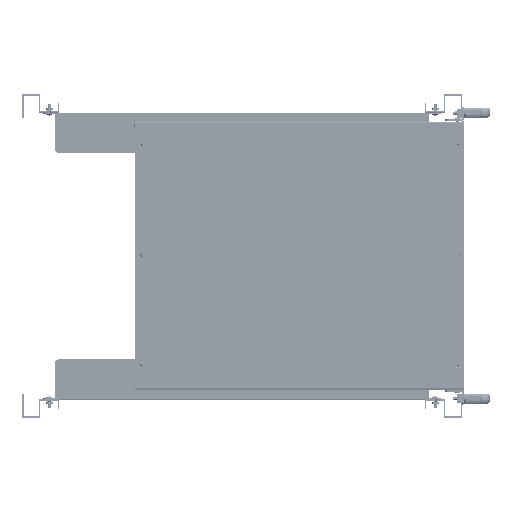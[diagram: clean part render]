
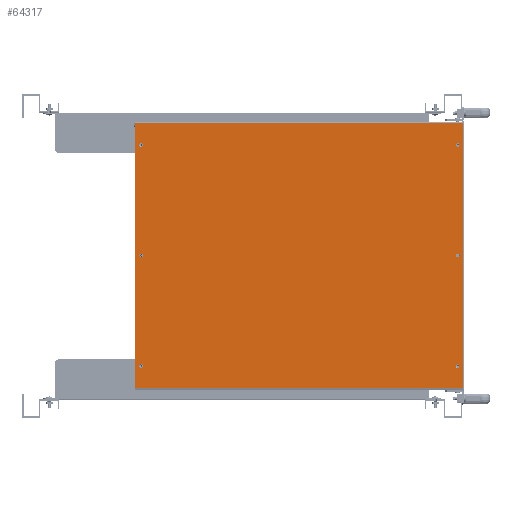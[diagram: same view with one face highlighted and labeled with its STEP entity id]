
A CAD part, top view. The second image highlights one B-rep face of the part: STEP entity #64317.
In plain terms, the highlighted planar face has unit normal (0, 0, 1) as drawn and (0, 1, 0) by its records, which use the part's own axes.
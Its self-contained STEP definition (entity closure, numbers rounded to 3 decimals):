
#58426=DIRECTION('',(-1.,0.,0.));
#58427=VECTOR('',#58426,432.);
#58428=CARTESIAN_POINT('',(216.,65.7,266.3));
#58429=LINE('',#58428,#58427);
#58430=CARTESIAN_POINT('',(0.,65.7,257.3));
#58431=DIRECTION('',(0.,1.,0.));
#58432=DIRECTION('',(0.,0.,1.));
#58433=AXIS2_PLACEMENT_3D('',#58430,#58431,#58432);
#58435=CARTESIAN_POINT('',(0.,65.7,257.3));
#58436=DIRECTION('',(0.,1.,0.));
#58437=DIRECTION('',(0.,0.,-1.));
#58438=AXIS2_PLACEMENT_3D('',#58435,#58436,#58437);
#58440=CARTESIAN_POINT('',(180.,65.7,-257.7));
#58441=DIRECTION('',(0.,1.,0.));
#58442=DIRECTION('',(0.,0.,1.));
#58443=AXIS2_PLACEMENT_3D('',#58440,#58441,#58442);
#58445=CARTESIAN_POINT('',(180.,65.7,-257.7));
#58446=DIRECTION('',(0.,1.,0.));
#58447=DIRECTION('',(0.,0.,-1.));
#58448=AXIS2_PLACEMENT_3D('',#58445,#58446,#58447);
#58450=CARTESIAN_POINT('',(0.,65.7,-257.7));
#58451=DIRECTION('',(0.,1.,0.));
#58452=DIRECTION('',(0.,0.,1.));
#58453=AXIS2_PLACEMENT_3D('',#58450,#58451,#58452);
#58455=CARTESIAN_POINT('',(0.,65.7,-257.7));
#58456=DIRECTION('',(0.,1.,0.));
#58457=DIRECTION('',(0.,0.,-1.));
#58458=AXIS2_PLACEMENT_3D('',#58455,#58456,#58457);
#58460=CARTESIAN_POINT('',(-180.,65.7,-257.7));
#58461=DIRECTION('',(0.,1.,0.));
#58462=DIRECTION('',(0.,0.,1.));
#58463=AXIS2_PLACEMENT_3D('',#58460,#58461,#58462);
#58465=CARTESIAN_POINT('',(-180.,65.7,-257.7));
#58466=DIRECTION('',(0.,1.,0.));
#58467=DIRECTION('',(0.,0.,-1.));
#58468=AXIS2_PLACEMENT_3D('',#58465,#58466,#58467);
#58470=CARTESIAN_POINT('',(180.,65.7,257.3));
#58471=DIRECTION('',(0.,1.,0.));
#58472=DIRECTION('',(0.,0.,1.));
#58473=AXIS2_PLACEMENT_3D('',#58470,#58471,#58472);
#58475=CARTESIAN_POINT('',(180.,65.7,257.3));
#58476=DIRECTION('',(0.,1.,0.));
#58477=DIRECTION('',(0.,0.,-1.));
#58478=AXIS2_PLACEMENT_3D('',#58475,#58476,#58477);
#58480=CARTESIAN_POINT('',(-180.,65.7,257.3));
#58481=DIRECTION('',(0.,1.,0.));
#58482=DIRECTION('',(0.,0.,1.));
#58483=AXIS2_PLACEMENT_3D('',#58480,#58481,#58482);
#58485=CARTESIAN_POINT('',(-180.,65.7,257.3));
#58486=DIRECTION('',(0.,1.,0.));
#58487=DIRECTION('',(0.,0.,-1.));
#58488=AXIS2_PLACEMENT_3D('',#58485,#58486,#58487);
#58490=DIRECTION('',(0.,0.,1.));
#58491=VECTOR('',#58490,533.5);
#58492=CARTESIAN_POINT('',(-216.,65.7,-267.2));
#58493=LINE('',#58492,#58491);
#59612=DIRECTION('',(-1.,0.,0.));
#59613=VECTOR('',#59612,432.);
#59614=CARTESIAN_POINT('',(216.,65.7,-267.2));
#59615=LINE('',#59614,#59613);
#60108=DIRECTION('',(0.,0.,-1.));
#60109=VECTOR('',#60108,533.5);
#60110=CARTESIAN_POINT('',(216.,65.7,266.3));
#60111=LINE('',#60110,#60109);
#62806=CARTESIAN_POINT('',(180.,65.7,-260.7));
#62808=VERTEX_POINT('',#62806);
#62811=CARTESIAN_POINT('',(180.,65.7,-254.7));
#62813=VERTEX_POINT('',#62811);
#62842=CARTESIAN_POINT('',(-216.,65.7,266.3));
#62843=VERTEX_POINT('',#62842);
#62844=CARTESIAN_POINT('',(216.,65.7,266.3));
#62845=VERTEX_POINT('',#62844);
#62846=CARTESIAN_POINT('',(0.,65.7,260.3));
#62847=CARTESIAN_POINT('',(0.,65.7,254.3));
#62848=VERTEX_POINT('',#62846);
#62849=VERTEX_POINT('',#62847);
#62850=CARTESIAN_POINT('',(0.,65.7,-254.7));
#62851=CARTESIAN_POINT('',(0.,65.7,-260.7));
#62852=VERTEX_POINT('',#62850);
#62853=VERTEX_POINT('',#62851);
#62854=CARTESIAN_POINT('',(-180.,65.7,-254.7));
#62855=CARTESIAN_POINT('',(-180.,65.7,-260.7));
#62856=VERTEX_POINT('',#62854);
#62857=VERTEX_POINT('',#62855);
#62858=CARTESIAN_POINT('',(180.,65.7,260.3));
#62859=CARTESIAN_POINT('',(180.,65.7,254.3));
#62860=VERTEX_POINT('',#62858);
#62861=VERTEX_POINT('',#62859);
#62862=CARTESIAN_POINT('',(-180.,65.7,260.3));
#62863=CARTESIAN_POINT('',(-180.,65.7,254.3));
#62864=VERTEX_POINT('',#62862);
#62865=VERTEX_POINT('',#62863);
#62866=CARTESIAN_POINT('',(-216.,65.7,-267.2));
#62867=VERTEX_POINT('',#62866);
#63552=CARTESIAN_POINT('',(216.,65.7,-267.2));
#63553=VERTEX_POINT('',#63552);
#64269=CARTESIAN_POINT('',(0.,65.7,-0.45));
#64270=DIRECTION('',(0.,1.,0.));
#64271=DIRECTION('',(0.,0.,1.));
#64272=AXIS2_PLACEMENT_3D('',#64269,#64270,#64271);
#64273=PLANE('',#64272);
#64274=ORIENTED_EDGE('',*,*,#64259,.T.);
#64276=ORIENTED_EDGE('',*,*,#64275,.F.);
#64278=ORIENTED_EDGE('',*,*,#64277,.F.);
#64280=ORIENTED_EDGE('',*,*,#64279,.F.);
#64281=EDGE_LOOP('',(#64274,#64276,#64278,#64280));
#64282=FACE_OUTER_BOUND('',#64281,.F.);
#64284=ORIENTED_EDGE('',*,*,#64283,.T.);
#64286=ORIENTED_EDGE('',*,*,#64285,.T.);
#64287=EDGE_LOOP('',(#64284,#64286));
#64288=FACE_BOUND('',#64287,.F.);
#64289=ORIENTED_EDGE('',*,*,#64181,.T.);
#64290=ORIENTED_EDGE('',*,*,#64198,.T.);
#64291=EDGE_LOOP('',(#64289,#64290));
#64292=FACE_BOUND('',#64291,.F.);
#64294=ORIENTED_EDGE('',*,*,#64293,.T.);
#64296=ORIENTED_EDGE('',*,*,#64295,.T.);
#64297=EDGE_LOOP('',(#64294,#64296));
#64298=FACE_BOUND('',#64297,.F.);
#64300=ORIENTED_EDGE('',*,*,#64299,.T.);
#64302=ORIENTED_EDGE('',*,*,#64301,.T.);
#64303=EDGE_LOOP('',(#64300,#64302));
#64304=FACE_BOUND('',#64303,.F.);
#64306=ORIENTED_EDGE('',*,*,#64305,.T.);
#64308=ORIENTED_EDGE('',*,*,#64307,.T.);
#64309=EDGE_LOOP('',(#64306,#64308));
#64310=FACE_BOUND('',#64309,.F.);
#64312=ORIENTED_EDGE('',*,*,#64311,.T.);
#64314=ORIENTED_EDGE('',*,*,#64313,.T.);
#64315=EDGE_LOOP('',(#64312,#64314));
#64316=FACE_BOUND('',#64315,.F.);
#64317=ADVANCED_FACE('',(#64282,#64288,#64292,#64298,#64304,#64310,#64316),
#64273,.T.);
#58434=CIRCLE('',#58433,3.);
#58439=CIRCLE('',#58438,3.);
#58444=CIRCLE('',#58443,3.);
#58449=CIRCLE('',#58448,3.);
#58454=CIRCLE('',#58453,3.);
#58459=CIRCLE('',#58458,3.);
#58464=CIRCLE('',#58463,3.);
#58469=CIRCLE('',#58468,3.);
#58474=CIRCLE('',#58473,3.);
#58479=CIRCLE('',#58478,3.);
#58484=CIRCLE('',#58483,3.);
#58489=CIRCLE('',#58488,3.);
#64181=EDGE_CURVE('',#62813,#62808,#58444,.T.);
#64198=EDGE_CURVE('',#62808,#62813,#58449,.T.);
#64259=EDGE_CURVE('',#62845,#62843,#58429,.T.);
#64275=EDGE_CURVE('',#62867,#62843,#58493,.T.);
#64277=EDGE_CURVE('',#63553,#62867,#59615,.T.);
#64279=EDGE_CURVE('',#62845,#63553,#60111,.T.);
#64283=EDGE_CURVE('',#62848,#62849,#58434,.T.);
#64285=EDGE_CURVE('',#62849,#62848,#58439,.T.);
#64293=EDGE_CURVE('',#62852,#62853,#58454,.T.);
#64295=EDGE_CURVE('',#62853,#62852,#58459,.T.);
#64299=EDGE_CURVE('',#62856,#62857,#58464,.T.);
#64301=EDGE_CURVE('',#62857,#62856,#58469,.T.);
#64305=EDGE_CURVE('',#62860,#62861,#58474,.T.);
#64307=EDGE_CURVE('',#62861,#62860,#58479,.T.);
#64311=EDGE_CURVE('',#62864,#62865,#58484,.T.);
#64313=EDGE_CURVE('',#62865,#62864,#58489,.T.);
